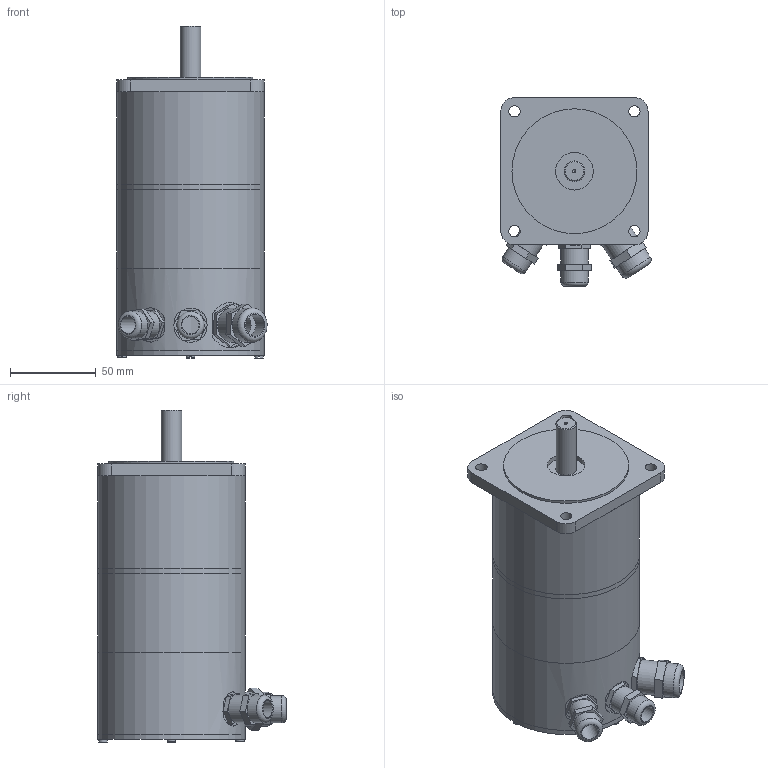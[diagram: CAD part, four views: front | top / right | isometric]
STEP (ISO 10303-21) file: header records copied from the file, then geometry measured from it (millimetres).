
FILE_DESCRIPTION((''),'2;1');
FILE_NAME('C:\Users\Reinhard\Documents\Inventor\Testschrittmotor\SM88\SM88.1-BH200-KV.stp','2012-11-11T21:07:46',('Reinhard'),(''),'Autodesk Inventor 2012','Autodesk Inventor 2012','');
FILE_SCHEMA(('CONFIG_CONTROL_DESIGN'));
Length unit declared in the file: millimetre
Products named in the file (1): SM88
Bounding box: 87.8 x 110 x 194 mm (x, y, z)
Volume: 206491.4 mm3; surface area: 127655.5 mm2
Topology: 2 solids, 3 shells, 166 faces, 378 edges, 248 vertices
Faces by surface type: plane 106, cylinder 55, torus 3, cone 2
Full cylindrical faces by diameter (mm): 2 x1, 5 x4, 6.6 x4, 10 x2, 12 x4, 13 x2, 15 x1, 16 x4, 18.376 x1, 20 x3, 22 x1, 73 x1, 78 x2, 82 x2, 86 x5
Entity records: 4581 total; most frequent: CARTESIAN_POINT 938, DIRECTION 750, ORIENTED_EDGE 652, EDGE_CURVE 326, AXIS2_PLACEMENT_3D 280, EDGE_LOOP 254, VERTEX_POINT 238, VECTOR 190
